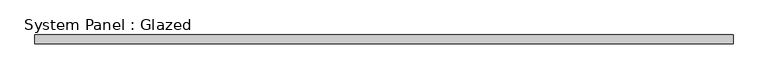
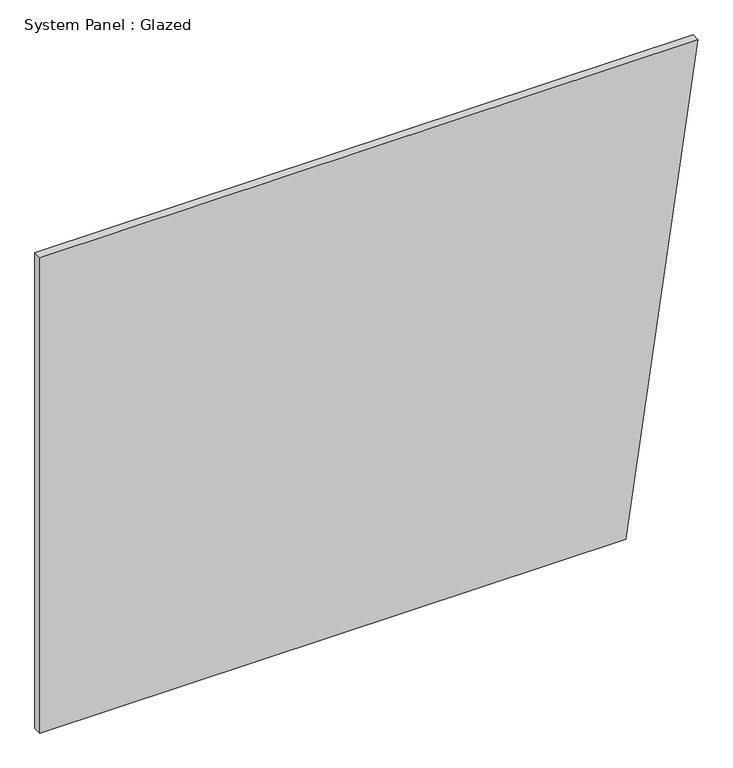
"""IFC4 building model written with IfcOpenShell, lengths in millimetres: plate geometry, System Panel : Glazed."""

from ifc_helpers import new_model, si_unit, frame, origin, place, context, project, spatial, polyline, outline, extrude, source, transform, mapped, element, save


def system_panel_glazed_069080fe(model_context):
    return source(origin(), model_context, "Body", "SweptSolid", [
        extrude(outline(polyline([(0.0, -997.7266186), (0.0, 778.446043), (1524.0, 997.7266186), (1524.0, -997.7266186), (0.0, -997.7266186)])), frame((0.0, 19.05, 0.0), z_axis=(0.0, 1.0, 0.0), x_axis=(0.0, 0.0, 1.0)), (0.0, 0.0, 1.0), 25.4),
    ])


if __name__ == "__main__":
    model = new_model("IFC4")
    model_context = context("Model", 3, world=origin())
    ifc_project = project(units=[si_unit("LENGTHUNIT", "METRE", prefix="MILLI")], contexts=[model_context])
    site = spatial("IfcSite", under=ifc_project)
    building = spatial("IfcBuilding", under=site)
    placement = place(None, origin())
    system_panel_glazed_shape = system_panel_glazed_069080fe(model_context)
    element("IfcPlate", 1, ObjectType="System Panel : Glazed", at=placement, inside=building, context=model_context, shape_type="MappedRepresentation", body=[
        mapped(system_panel_glazed_shape, transform((0.0, 0.0, 0.0), x_axis=(1.0, 0.0, 0.0), y_axis=(0.0, 1.0, 0.0), z_axis=(0.0, 0.0, 1.0))),
    ])
    save(model, "model.ifc")
